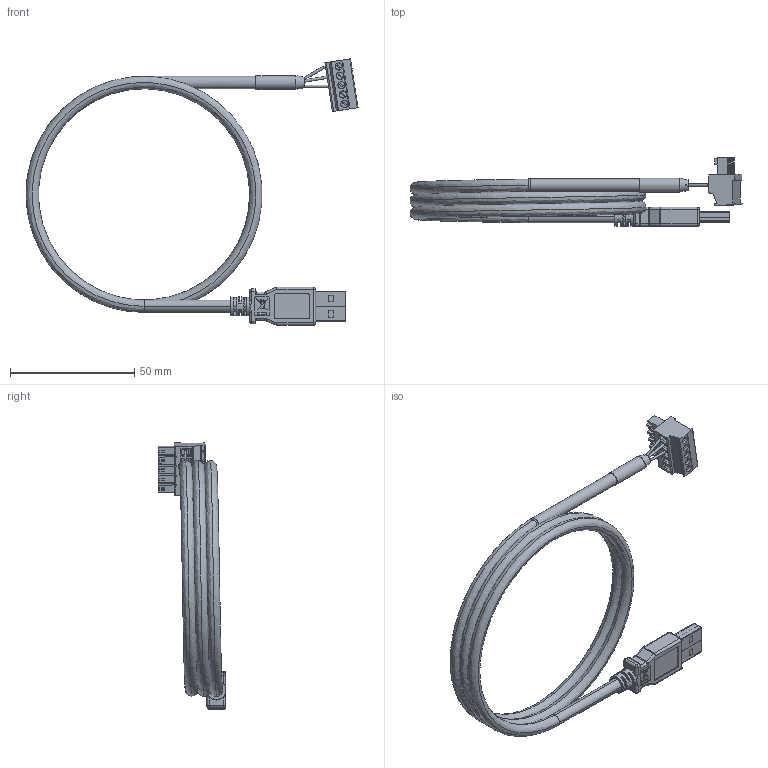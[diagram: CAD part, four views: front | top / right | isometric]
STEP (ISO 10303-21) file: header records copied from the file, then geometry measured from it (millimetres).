
FILE_DESCRIPTION (( 'STEP AP214' ), '1' );
FILE_NAME ('ACC-CBL-USB-RS485.STEP', '2016-01-04T19:38:32', ( 'Daryl' ), ( 'Microsoft' ), 'SwSTEP 2.0', 'SolidWorks 2014', '' );
FILE_SCHEMA (( 'AUTOMOTIVE_DESIGN' ));
Length unit declared in the file: millimetre
Products named in the file (1): ACC-CBL-USB-RS485
Bounding box: 133.58 x 27.31 x 107.16 mm (x, y, z)
Surface area: 18515.9 mm2 (no closed solid volume)
Topology: 0 solids, 22 shells, 573 faces, 1892 edges, 1265 vertices
Faces by surface type: plane 319, cylinder 180, bspline 30, torus 29, sphere 12, cone 3
Full cylindrical faces by diameter (mm): 1 x5, 1.6 x4, 2.9 x5, 5 x2, 5.6 x1, 7.62 x1
Entity records: 28974 total; most frequent: CARTESIAN_POINT 7008, DIRECTION 3139, ORIENTED_EDGE 3039, EDGE_CURVE 1827, VERTEX_POINT 1254, LINE 1199, VECTOR 1199, AXIS2_PLACEMENT_3D 970
